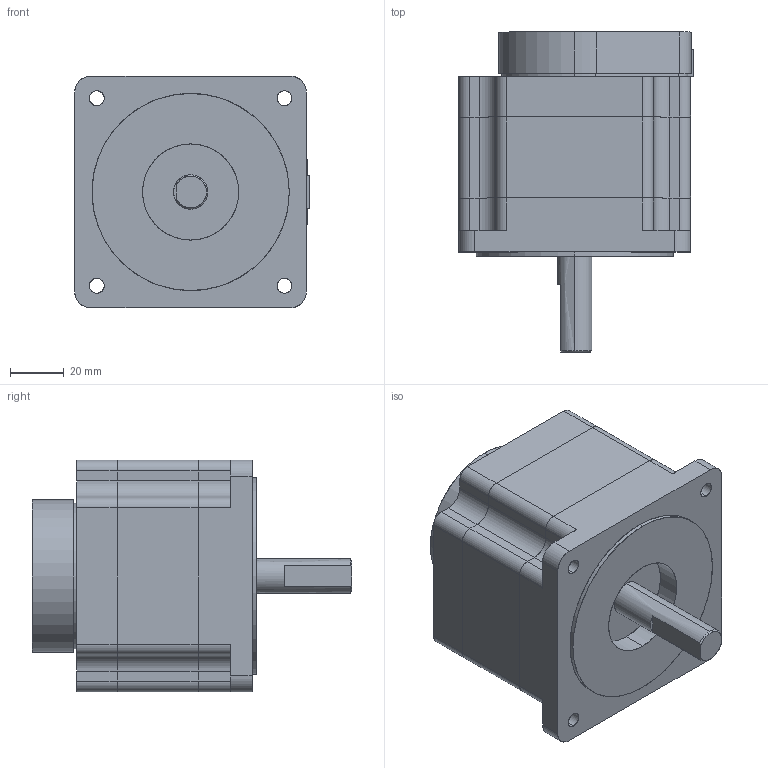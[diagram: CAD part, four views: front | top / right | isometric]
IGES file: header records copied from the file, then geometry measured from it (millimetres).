
Start section: SolidWorks IGES file using analytic representation for surfaces
Global section: file name: C:\Users\Christine\Documents\Arcus\Project #21\STM-34-1-1-E100\STM-34-1-1-E100.IGS; native system: SolidWorks 2008; preprocessor: SolidWorks 2008; author: Christine; date: 131106.221742; units: millimetre
Bounding box: 86.87 x 118.51 x 85.85 mm (x, y, z)
Surface area: 81288.7 mm2 (no closed solid volume)
Topology: 0 solids, 0 shells, 216 faces, 3495 edges, 3483 vertices
Faces by surface type: revolution 123, bspline 93
